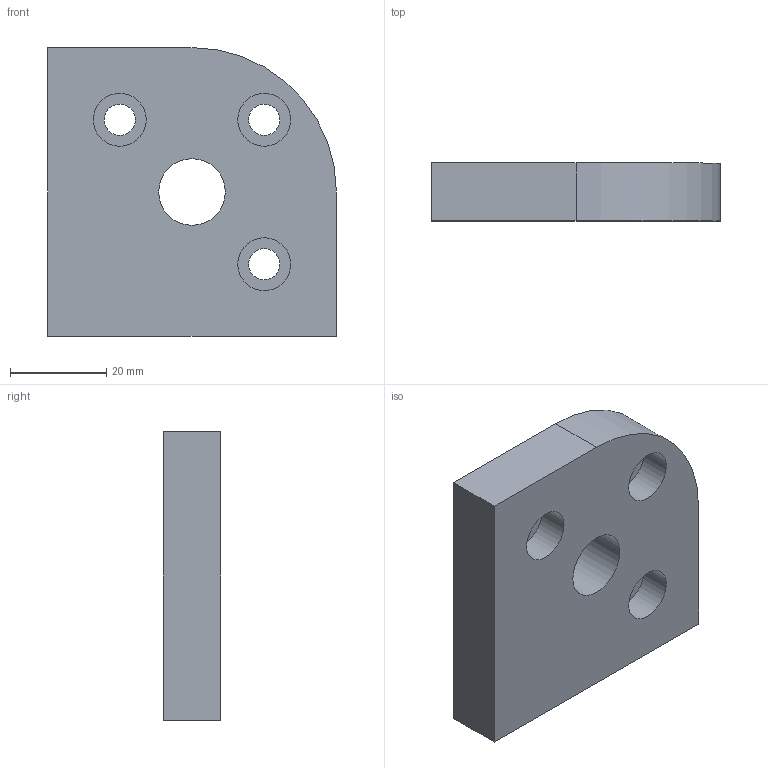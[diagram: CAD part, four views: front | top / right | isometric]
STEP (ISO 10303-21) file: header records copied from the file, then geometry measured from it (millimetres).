
FILE_DESCRIPTION(/* description */ ('Unknown'),/* implementation_level */ '2;1');
FILE_NAME(/* name */ 'FTR6060',/* time_stamp */ '2026-09-29T14:57:57+08:00',/* author */ ('Unknown'),/* organization */ ('Unknown'),/* preprocessor_version */ 'ST-DEVELOPER v16.7',/* originating_system */ 'DEX',/* authorisation */ $);
FILE_SCHEMA (('AUTOMOTIVE_DESIGN {1 0 10303 214 3 1 1}'));
Length unit declared in the file: millimetre
Products named in the file (1): FTR6060
Bounding box: 60 x 12 x 60 mm (x, y, z)
Volume: 36677.7 mm3; surface area: 10571.8 mm2
Topology: 1 solids, 1 shells, 17 faces, 40 edges, 28 vertices
Faces by surface type: plane 9, cylinder 8
Full cylindrical faces by diameter (mm): 6.5 x3, 11 x3, 13.835 x1
Entity records: 590 total; most frequent: DIRECTION 81, CARTESIAN_POINT 71, ORIENTED_EDGE 58, EDGE_LOOP 35, FACE_BOUND 35, AXIS2_PLACEMENT_3D 34, EDGE_CURVE 29, VERTEX_POINT 24
